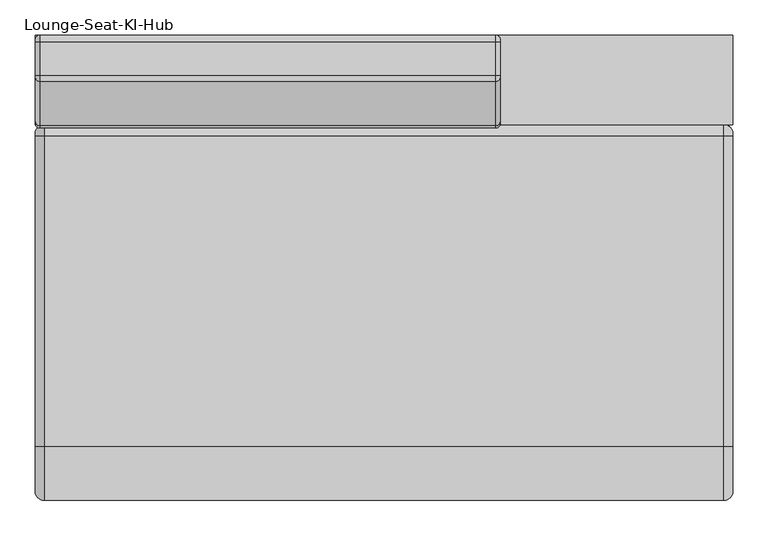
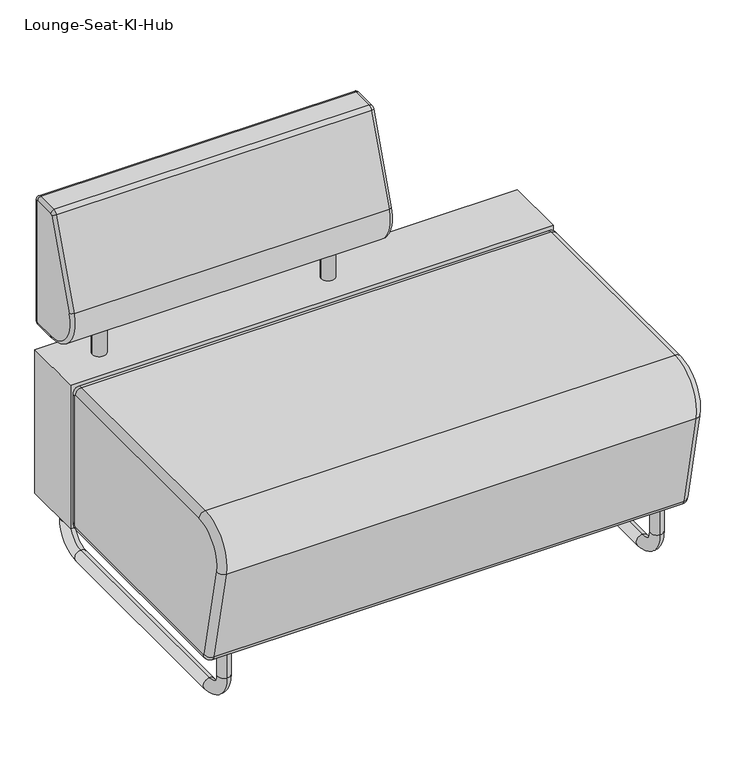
"""IFC4 building model written with IfcOpenShell, lengths in millimetres: furniture geometry."""

from ifc_helpers import new_model, si_unit, point, frame, frame_2d, origin, place, context, project, spatial, polyline, circle_curve, ellipse_curve, trimmed, segment, composite_curve, outline, extrude, source, transform, mapped, element, save
from ifc_brep_helpers import plane_surface, cylinder_surface, revolved_surface, advanced_brep


def lounge_seat_ki_hub_a14865a0(model_context):
    return source(origin(), model_context, "Body", "SolidModel", [
        extrude(outline(composite_curve([segment(trimmed(circle_curve(frame_2d((69.85, 266.7)), 14.2875), [point((55.5625, 266.7))], [point((84.1375, 266.7))], False, "CARTESIAN"), True, "CONTINUOUS"), segment(trimmed(circle_curve(frame_2d((69.85, 266.7)), 14.2875), [point((84.1375, 266.7))], [point((55.5625, 266.7))], False, "CARTESIAN"), True, "CONTINUOUS")], self_intersect=False)), frame((0.0, 0.0, 431.8), z_axis=(0.0, 0.0, 1.0), x_axis=(1.0, 0.0, 0.0)), (0.0, 0.0, 1.0), 63.5),
        extrude(outline(composite_curve([segment(trimmed(circle_curve(frame_2d((-400.05, 266.7)), 14.2875), [point((-414.3375, 266.7))], [point((-385.7625, 266.7))], False, "CARTESIAN"), True, "CONTINUOUS"), segment(trimmed(circle_curve(frame_2d((-400.05, 266.7)), 14.2875), [point((-385.7625, 266.7))], [point((-414.3375, 266.7))], False, "CARTESIAN"), True, "CONTINUOUS")], self_intersect=False)), frame((0.0, 0.0, 431.8), z_axis=(0.0, 0.0, 1.0), x_axis=(1.0, 0.0, 0.0)), (0.0, 0.0, 1.0), 63.5),
        advanced_brep(
        [(165.1, 274.6375, 495.3), (165.1, 207.4933705, 584.4032693), (158.75, 201.3893588, 586.1535665), (158.75, 274.6375, 488.95), (-488.95, 274.6375, 488.95), (-488.95, 201.3893588, 586.1535665), (-495.3, 207.4933705, 584.4032693), (-495.3, 274.6375, 495.3), (158.75, 320.675, 488.95), (165.1, 320.675, 495.3), (-495.3, 320.675, 495.3), (-488.95, 320.675, 488.95), (158.75, 330.2, 498.475), (165.1, 323.85, 498.475), (-495.3, 323.85, 498.475), (-488.95, 330.2, 498.475), (158.75, 330.2, 758.825), (165.1, 323.85, 758.825), (-495.3, 323.85, 758.825), (-488.95, 330.2, 758.825), (158.75, 320.675, 768.35), (165.1, 320.675, 762.0), (-495.3, 320.675, 762.0), (-488.95, 320.675, 768.35), (158.75, 273.6171173, 768.35), (165.1, 273.6171173, 762.0), (-495.3, 273.6171173, 762.0), (-488.95, 273.6171173, 768.35), (158.75, 264.88726, 762.6348842), (165.1, 270.7071649, 760.0949614), (-495.3, 270.7071649, 760.0949614), (-488.95, 264.88726, 762.6348842)],
        [
            (0, 1, circle_curve(frame((165.1, 274.6375, 565.15), z_axis=(-1.0, 0.0, 0.0), x_axis=(0.0, -0.9612616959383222, 0.2756373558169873)), 69.85)),
            (1, 2, circle_curve(frame((158.75, 207.4933705, 584.4032693), z_axis=(0.0, -0.2756373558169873, -0.9612616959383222), x_axis=(0.0, 0.9612616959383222, -0.2756373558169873)), 6.35)),
            (2, 3, circle_curve(frame((158.75, 274.6375, 565.15), z_axis=(1.0, 0.0, 0.0), x_axis=(0.0, -0.9612616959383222, 0.2756373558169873)), 76.2)),
            (3, 0, circle_curve(frame((158.75, 274.6375, 495.3), z_axis=(0.0, -0.9999999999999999, 0.0), x_axis=(0.0, 0.0, 0.9999999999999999)), 6.35)),
            (4, 5, circle_curve(frame((-488.95, 274.6375, 565.15), z_axis=(-1.0, 0.0, 0.0), x_axis=(0.0, -0.9612616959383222, 0.2756373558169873)), 76.2)),
            (5, 6, circle_curve(frame((-488.95, 207.4933705, 584.4032693), z_axis=(0.0, -0.2756373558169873, -0.9612616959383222), x_axis=(0.0, 0.9612616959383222, -0.2756373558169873)), 6.35)),
            (6, 7, circle_curve(frame((-495.3, 274.6375, 565.15), z_axis=(1.0, 0.0, 0.0), x_axis=(0.0, -0.9612616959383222, 0.2756373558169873)), 69.85)),
            (7, 4, circle_curve(frame((-488.95, 274.6375, 495.3), z_axis=(0.0, -0.9999999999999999, 0.0), x_axis=(0.0, 0.0, 0.9999999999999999)), 6.35)),
            (2, 5),
            (4, 3),
            (3, 8),
            (8, 9, circle_curve(frame((158.75, 320.675, 495.3), z_axis=(0.0, -1.0, 0.0), x_axis=(0.0, 0.0, 1.0)), 6.35)),
            (9, 0),
            (7, 10),
            (10, 11, circle_curve(frame((-488.95, 320.675, 495.3), z_axis=(0.0, -1.0, 0.0), x_axis=(0.0, 0.0, 1.0)), 6.35)),
            (11, 4),
            (11, 8),
            (8, 12, circle_curve(frame((158.75, 320.675, 498.475), z_axis=(1.0, 0.0, 0.0), x_axis=(0.0, 0.0, -1.0)), 9.525)),
            (12, 13, circle_curve(frame((158.75, 323.85, 498.475), z_axis=(0.0, -1.3642707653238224e-12, -1.0), x_axis=(0.0, -1.0, 1.3642707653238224e-12)), 6.35)),
            (13, 9, circle_curve(frame((165.1, 320.675, 498.475), z_axis=(-1.0, 0.0, 0.0), x_axis=(0.0, 0.0, -1.0)), 3.175)),
            (10, 14, circle_curve(frame((-495.3, 320.675, 498.475), z_axis=(1.0, 0.0, 0.0), x_axis=(0.0, 0.0, -1.0)), 3.175)),
            (14, 15, circle_curve(frame((-488.95, 323.85, 498.475), z_axis=(0.0, 0.0, -1.0), x_axis=(0.0, -1.0, 0.0)), 6.35)),
            (15, 11, circle_curve(frame((-488.95, 320.675, 498.475), z_axis=(-1.0, 0.0, 0.0), x_axis=(0.0, 0.0, -1.0)), 9.525)),
            (15, 12),
            (12, 16),
            (16, 17, circle_curve(frame((158.75, 323.85, 758.825), z_axis=(0.0, 0.0, -1.0), x_axis=(0.0, -1.0, 0.0)), 6.35)),
            (17, 13),
            (14, 18),
            (18, 19, circle_curve(frame((-488.95, 323.85, 758.825), z_axis=(0.0, 0.0, -1.0), x_axis=(0.0, -1.0, 0.0)), 6.35)),
            (19, 15),
            (19, 16),
            (16, 20, circle_curve(frame((158.75, 320.675, 758.825), z_axis=(1.0, 0.0, 0.0), x_axis=(0.0, 1.0, 0.0)), 9.525)),
            (20, 21, circle_curve(frame((158.75, 320.675, 762.0), z_axis=(0.0, 1.0, 0.0), x_axis=(0.0, 0.0, -1.0)), 6.35)),
            (21, 17, circle_curve(frame((165.1, 320.675, 758.825), z_axis=(-1.0, 0.0, 0.0), x_axis=(0.0, 1.0, 0.0)), 3.175)),
            (18, 22, circle_curve(frame((-495.3, 320.675, 758.825), z_axis=(1.0, 0.0, 0.0), x_axis=(0.0, 1.0, 0.0)), 3.175)),
            (22, 23, circle_curve(frame((-488.95, 320.675, 762.0), z_axis=(0.0, 1.0, 0.0), x_axis=(0.0, 0.0, -1.0)), 6.35)),
            (23, 19, circle_curve(frame((-488.95, 320.675, 758.825), z_axis=(-1.0, 0.0, 0.0), x_axis=(0.0, 1.0, 0.0)), 9.525)),
            (23, 20),
            (20, 24),
            (24, 25, circle_curve(frame((158.75, 273.6171173, 762.0), z_axis=(0.0, 1.0, 0.0), x_axis=(0.0, 0.0, -1.0)), 6.35)),
            (25, 21),
            (22, 26),
            (26, 27, circle_curve(frame((-488.95, 273.6171173, 762.0), z_axis=(0.0, 1.0, 0.0), x_axis=(0.0, 0.0, -1.0)), 6.35)),
            (27, 23),
            (27, 24),
            (24, 28, circle_curve(frame((158.75, 273.6171173, 758.825), z_axis=(1.0, 0.0, 0.0), x_axis=(0.0, 0.0, 1.0)), 9.525)),
            (28, 29, circle_curve(frame((158.75, 270.7071649, 760.0949614), z_axis=(0.0, 0.3999878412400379, 0.9165204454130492), x_axis=(0.0, 0.9165204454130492, -0.3999878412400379)), 6.35)),
            (29, 25, circle_curve(frame((165.1, 273.6171173, 758.825), z_axis=(-1.0, 0.0, 0.0), x_axis=(0.0, 0.0, 1.0)), 3.175)),
            (26, 30, circle_curve(frame((-495.3, 273.6171173, 758.825), z_axis=(1.0, 0.0, 0.0), x_axis=(0.0, 0.0, 1.0)), 3.175)),
            (30, 31, circle_curve(frame((-488.95, 270.7071649, 760.0949614), z_axis=(0.0, 0.399987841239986, 0.9165204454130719), x_axis=(0.0, 0.9165204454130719, -0.399987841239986)), 6.35)),
            (31, 27, circle_curve(frame((-488.95, 273.6171173, 758.825), z_axis=(-1.0, 0.0, 0.0), x_axis=(0.0, 0.0, 1.0)), 9.525)),
            (31, 28),
            (1, 29, circle_curve(frame((165.1, 1565.6359892, 194.9621402), z_axis=(-1.0, 0.0, 0.0), x_axis=(0.0, -0.9165204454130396, 0.39998784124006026)), 1412.875)),
            (28, 2, circle_curve(frame((158.75, 1565.6359892, 194.9621402), z_axis=(1.0, 0.0, 0.0), x_axis=(0.0, -0.9165204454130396, 0.39998784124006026)), 1419.225)),
            (6, 30, circle_curve(frame((-495.3, 1565.6359892, 194.9621402), z_axis=(-1.0, 0.0, 0.0), x_axis=(0.0, -0.9165204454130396, 0.39998784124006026)), 1412.875)),
            (5, 31, circle_curve(frame((-488.95, 1565.6359892, 194.9621402), z_axis=(-1.0, 0.0, 0.0), x_axis=(0.0, -0.9165204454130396, 0.39998784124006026)), 1419.225)),
        ],
        [
            revolved_surface(trimmed(ellipse_curve(frame((158.75, 207.4933705, 584.4032693), z_axis=(0.0, 0.2756373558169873, 0.9612616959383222), x_axis=(0.0, 0.9612616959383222, -0.2756373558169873)), 6.35, 6.35), [point((158.75, 201.3893588, 586.1535665))], [point((165.1, 207.4933705, 584.4032693))], True, "CARTESIAN"), (0.0, 274.6375, 565.15), (1.0, 0.0, 0.0)),
            revolved_surface(trimmed(ellipse_curve(frame((-488.95, 207.4933705, 584.4032693), z_axis=(0.0, 0.2756373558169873, 0.9612616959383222), x_axis=(0.0, 0.9612616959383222, -0.2756373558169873)), 6.35, 6.35), [point((-495.3, 207.4933705, 584.4032693))], [point((-488.95, 201.3893588, 586.1535665))], True, "CARTESIAN"), (0.0, 274.6375, 565.15), (1.0, 0.0, 0.0)),
            cylinder_surface(frame((0.0, 274.6375, 565.15), z_axis=(1.0, 0.0, 0.0), x_axis=(0.0, -0.9612616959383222, 0.2756373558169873)), 76.2),
            cylinder_surface(frame((158.75, 274.6375, 495.3), z_axis=(0.0, -1.0, 0.0), x_axis=(0.0, 0.0, 1.0)), 6.35),
            cylinder_surface(frame((-488.95, 274.6375, 495.3), z_axis=(0.0, -1.0, 0.0), x_axis=(0.0, 0.0, 1.0)), 6.35),
            plane_surface(frame((-488.95, 274.6375, 488.95), z_axis=(0.0, 0.0, -1.0), x_axis=(0.0, 1.0, 0.0))),
            revolved_surface(trimmed(ellipse_curve(frame((158.75, 320.675, 495.3), z_axis=(0.0, -1.0, 0.0), x_axis=(0.0, 0.0, 1.0)), 6.35, 6.35), [point((158.75, 320.675, 488.95))], [point((165.1, 320.675, 495.3))], True, "CARTESIAN"), (0.0, 320.675, 498.475), (1.0, 0.0, 0.0)),
            revolved_surface(trimmed(ellipse_curve(frame((-488.95, 320.675, 495.3), z_axis=(0.0, -1.0, 0.0), x_axis=(0.0, 0.0, 1.0)), 6.35, 6.35), [point((-495.3, 320.675, 495.3))], [point((-488.95, 320.675, 488.95))], True, "CARTESIAN"), (0.0, 320.675, 498.475), (1.0, 0.0, 0.0)),
            cylinder_surface(frame((0.0, 320.675, 498.475), z_axis=(1.0, 0.0, 0.0), x_axis=(0.0, 0.0, -1.0)), 9.525),
            cylinder_surface(frame((158.75, 323.85, 498.475), z_axis=(0.0, 0.0, -1.0), x_axis=(0.0, -1.0, 0.0)), 6.35),
            cylinder_surface(frame((-488.95, 323.85, 498.475), z_axis=(0.0, 0.0, -1.0), x_axis=(0.0, -1.0, 0.0)), 6.35),
            plane_surface(frame((-488.95, 330.2, 498.475), z_axis=(0.0, 1.0, 0.0), x_axis=(0.0, 0.0, 1.0))),
            revolved_surface(trimmed(ellipse_curve(frame((158.75, 323.85, 758.825), z_axis=(0.0, 0.0, -1.0), x_axis=(0.0, -1.0, 0.0)), 6.35, 6.35), [point((158.75, 330.2, 758.825))], [point((165.1, 323.85, 758.825))], True, "CARTESIAN"), (0.0, 320.675, 758.825), (1.0, 0.0, 0.0)),
            revolved_surface(trimmed(ellipse_curve(frame((-488.95, 323.85, 758.825), z_axis=(0.0, 0.0, -1.0), x_axis=(0.0, -1.0, 0.0)), 6.35, 6.35), [point((-495.3, 323.85, 758.825))], [point((-488.95, 330.2, 758.825))], True, "CARTESIAN"), (0.0, 320.675, 758.825), (1.0, 0.0, 0.0)),
            cylinder_surface(frame((0.0, 320.675, 758.825), z_axis=(1.0, 0.0, 0.0), x_axis=(0.0, 1.0, 0.0)), 9.525),
            cylinder_surface(frame((158.75, 320.675, 762.0), z_axis=(0.0, 1.0, 0.0), x_axis=(0.0, 0.0, -1.0)), 6.35),
            cylinder_surface(frame((-488.95, 320.675, 762.0), z_axis=(0.0, 1.0, 0.0), x_axis=(0.0, 0.0, -1.0)), 6.35),
            plane_surface(frame((-488.95, 320.675, 768.35), z_axis=(0.0, 0.0, 1.0), x_axis=(0.0, -1.0, 0.0))),
            revolved_surface(trimmed(ellipse_curve(frame((158.75, 273.6171173, 762.0), z_axis=(0.0, 1.0, 0.0), x_axis=(0.0, 0.0, -1.0)), 6.35, 6.35), [point((158.75, 273.6171173, 768.35))], [point((165.1, 273.6171173, 762.0))], True, "CARTESIAN"), (0.0, 273.6171173, 758.825), (1.0, 0.0, 0.0)),
            revolved_surface(trimmed(ellipse_curve(frame((-488.95, 273.6171173, 762.0), z_axis=(0.0, 1.0, 0.0), x_axis=(0.0, 0.0, -1.0)), 6.35, 6.35), [point((-495.3, 273.6171173, 762.0))], [point((-488.95, 273.6171173, 768.35))], True, "CARTESIAN"), (0.0, 273.6171173, 758.825), (1.0, 0.0, 0.0)),
            cylinder_surface(frame((0.0, 273.6171173, 758.825), z_axis=(1.0, 0.0, 0.0), x_axis=(0.0, 0.0, 1.0)), 9.525),
            revolved_surface(trimmed(ellipse_curve(frame((158.75, 270.7071649, 760.0949614), z_axis=(0.0, 0.39998784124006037, 0.9165204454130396), x_axis=(0.0, 0.9165204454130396, -0.39998784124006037)), 6.35, 6.35), [point((158.75, 264.88726, 762.6348842))], [point((165.1, 270.7071649, 760.0949614))], True, "CARTESIAN"), (0.0, 1565.6359892, 194.9621402), (1.0, 0.0, 0.0)),
            plane_surface(frame((165.1, 1565.6359892, 194.9621402), z_axis=(1.0, 0.0, 0.0), x_axis=(0.0, -0.9165204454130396, 0.39998784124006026))),
            plane_surface(frame((-495.3, 1565.6359892, 194.9621402), z_axis=(-1.0, 0.0, 0.0), x_axis=(0.0, -0.9165204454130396, 0.39998784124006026))),
            revolved_surface(trimmed(ellipse_curve(frame((-488.95, 270.7071649, 760.0949614), z_axis=(0.0, 0.39998784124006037, 0.9165204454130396), x_axis=(0.0, 0.9165204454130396, -0.39998784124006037)), 6.35, 6.35), [point((-495.3, 270.7071649, 760.0949614))], [point((-488.95, 264.88726, 762.6348842))], True, "CARTESIAN"), (0.0, 1565.6359892, 194.9621402), (1.0, 0.0, 0.0)),
            cylinder_surface(frame((0.0, 1565.6359892, 194.9621402), z_axis=(1.0, 0.0, 0.0), x_axis=(0.0, -0.9165204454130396, 0.39998784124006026)), 1419.225),
        ],
        [
            (0, [[1, 2, 3, 4]]),
            (1, [[5, 6, 7, 8]]),
            (2, [[-3, 9, -5, 10]]),
            (3, [[-4, 11, 12, 13]]),
            (4, [[-8, 14, 15, 16]]),
            (5, [[-10, -16, 17, -11]]),
            (6, [[-12, 18, 19, 20]]),
            (7, [[-15, 21, 22, 23]]),
            (8, [[-17, -23, 24, -18]]),
            (9, [[-19, 25, 26, 27]]),
            (10, [[-22, 28, 29, 30]]),
            (11, [[-24, -30, 31, -25]]),
            (12, [[-26, 32, 33, 34]]),
            (13, [[-29, 35, 36, 37]]),
            (14, [[-31, -37, 38, -32]]),
            (15, [[-33, 39, 40, 41]]),
            (16, [[-36, 42, 43, 44]]),
            (17, [[-38, -44, 45, -39]]),
            (18, [[-40, 46, 47, 48]]),
            (19, [[-43, 49, 50, 51]]),
            (20, [[-45, -51, 52, -46]]),
            (21, [[-2, 53, -47, 54]]),
            (22, [[-1, -13, -20, -27, -34, -41, -48, -53]]),
            (23, [[-7, 55, -49, -42, -35, -28, -21, -14]]),
            (24, [[-6, 56, -50, -55]]),
            (25, [[-9, -54, -52, -56]]),
        ],
    ),
        advanced_brep(
        [(444.5, -266.7, 120.65), (444.5, -241.3, 120.65), (444.5, -266.7, 63.5), (444.5, -241.3, 63.5), (444.5, -203.2, 25.4), (444.5, -203.2, 0.0), (444.5, 254.0, 0.0), (444.5, 254.0, 25.4), (444.5, 292.1, 63.5), (444.5, 317.5, 63.5), (444.5, 317.5, 120.65), (444.5, 292.1, 120.65)],
        [
            (0, 1, circle_curve(frame((444.5, -254.0, 120.65), z_axis=(0.0, 0.0, 1.0), x_axis=(0.0, 1.0, 0.0)), 12.7)),
            (1, 0, circle_curve(frame((444.5, -254.0, 120.65), z_axis=(0.0, 0.0, 1.0), x_axis=(0.0, 1.0, 0.0)), 12.7)),
            (0, 2),
            (2, 3, circle_curve(frame((444.5, -254.0, 63.5), z_axis=(0.0, 0.0, 1.0), x_axis=(0.0, 1.0, 0.0)), 12.7)),
            (3, 1),
            (3, 2, circle_curve(frame((444.5, -254.0, 63.5), z_axis=(0.0, 0.0, 1.0), x_axis=(0.0, 1.0, 0.0)), 12.7)),
            (4, 3, circle_curve(frame((444.5, -203.2, 63.5), z_axis=(-1.0, 0.0, 0.0), x_axis=(0.0, -1.0, 0.0)), 38.1)),
            (2, 5, circle_curve(frame((444.5, -203.2, 63.5), z_axis=(1.0, 0.0, 0.0), x_axis=(0.0, -1.0, 0.0)), 63.5)),
            (5, 4, circle_curve(frame((444.5, -203.2, 12.7), z_axis=(0.0, -1.0, 0.0), x_axis=(0.0, 0.0, 1.0)), 12.7)),
            (4, 5, circle_curve(frame((444.5, -203.2, 12.7), z_axis=(0.0, -1.0, 0.0), x_axis=(0.0, 0.0, 1.0)), 12.7)),
            (5, 6),
            (6, 7, circle_curve(frame((444.5, 254.0, 12.7), z_axis=(0.0, -1.0, 0.0), x_axis=(0.0, 0.0, 1.0)), 12.7)),
            (7, 4),
            (7, 6, circle_curve(frame((444.5, 254.0, 12.7), z_axis=(0.0, -1.0, 0.0), x_axis=(0.0, 0.0, 1.0)), 12.7)),
            (8, 7, circle_curve(frame((444.5, 254.0, 63.5), z_axis=(-1.0, 0.0, 0.0), x_axis=(0.0, 0.0, -1.0)), 38.1)),
            (6, 9, circle_curve(frame((444.5, 254.0, 63.5), z_axis=(1.0, 0.0, 0.0), x_axis=(0.0, 0.0, -1.0)), 63.5)),
            (9, 8, circle_curve(frame((444.5, 304.8, 63.5), z_axis=(0.0, 0.0, -1.0), x_axis=(0.0, -1.0, 0.0)), 12.7)),
            (8, 9, circle_curve(frame((444.5, 304.8, 63.5), z_axis=(0.0, 0.0, -1.0), x_axis=(0.0, -1.0, 0.0)), 12.7)),
            (10, 11, circle_curve(frame((444.5, 304.8, 120.65), z_axis=(0.0, 0.0, 1.0), x_axis=(0.0, -1.0, 0.0)), 12.7)),
            (11, 10, circle_curve(frame((444.5, 304.8, 120.65), z_axis=(0.0, 0.0, 1.0), x_axis=(0.0, -1.0, 0.0)), 12.7)),
            (9, 10),
            (11, 8),
        ],
        [
            plane_surface(frame((444.5, -254.0, 120.65), z_axis=(0.0, 0.0, 1.0), x_axis=(1.0, 0.0, 0.0))),
            cylinder_surface(frame((444.5, -254.0, 120.65), z_axis=(0.0, 0.0, 1.0), x_axis=(0.0, 1.0, 0.0)), 12.7),
            revolved_surface(trimmed(ellipse_curve(frame((444.5, -254.0, 63.5), z_axis=(0.0, 0.0, 1.0), x_axis=(0.0, 1.0, 0.0)), 12.7, 12.7), [point((444.5, -266.7, 63.5))], [point((444.5, -241.3, 63.5))], True, "CARTESIAN"), (444.5, -203.2, 63.5), (1.0, 0.0, 0.0)),
            revolved_surface(trimmed(ellipse_curve(frame((444.5, -254.0, 63.5), z_axis=(0.0, 0.0, 1.0), x_axis=(0.0, 1.0, 0.0)), 12.7, 12.7), [point((444.5, -241.3, 63.5))], [point((444.5, -266.7, 63.5))], True, "CARTESIAN"), (444.5, -203.2, 63.5), (1.0, 0.0, 0.0)),
            cylinder_surface(frame((444.5, -203.2, 12.7), z_axis=(0.0, -1.0, 0.0), x_axis=(0.0, 0.0, 1.0)), 12.7),
            revolved_surface(trimmed(ellipse_curve(frame((444.5, 254.0, 12.7), z_axis=(0.0, -1.0, 0.0), x_axis=(0.0, 0.0, 1.0)), 12.7, 12.7), [point((444.5, 254.0, 0.0))], [point((444.5, 254.0, 25.4))], True, "CARTESIAN"), (444.5, 254.0, 63.5), (1.0, 0.0, 0.0)),
            revolved_surface(trimmed(ellipse_curve(frame((444.5, 254.0, 12.7), z_axis=(0.0, -1.0, 0.0), x_axis=(0.0, 0.0, 1.0)), 12.7, 12.7), [point((444.5, 254.0, 25.4))], [point((444.5, 254.0, 0.0))], True, "CARTESIAN"), (444.5, 254.0, 63.5), (1.0, 0.0, 0.0)),
            plane_surface(frame((444.5, 304.8, 120.65), z_axis=(0.0, 0.0, 1.0), x_axis=(1.0, 0.0, 0.0))),
            cylinder_surface(frame((444.5, 304.8, 63.5), z_axis=(0.0, 0.0, -1.0), x_axis=(0.0, -1.0, 0.0)), 12.7),
        ],
        [
            (0, [[1, 2]]),
            (1, [[-1, 3, 4, 5]]),
            (1, [[-2, -5, 6, -3]]),
            (2, [[7, -4, 8, 9]]),
            (3, [[-8, -6, -7, 10]]),
            (4, [[-9, 11, 12, 13]]),
            (4, [[-10, -13, 14, -11]]),
            (5, [[15, -12, 16, 17]]),
            (6, [[-16, -14, -15, 18]]),
            (7, [[19, 20]]),
            (8, [[-17, 21, -20, 22]]),
            (8, [[-18, -22, -19, -21]]),
        ],
    ),
        advanced_brep(
        [(-444.5, -266.7, 120.65), (-444.5, -241.3, 120.65), (-444.5, -266.7, 63.5), (-444.5, -241.3, 63.5), (-444.5, -203.2, 25.4), (-444.5, -203.2, 0.0), (-444.5, 254.0, 0.0), (-444.5, 254.0, 25.4), (-444.5, 292.1, 63.5), (-444.5, 317.5, 63.5), (-444.5, 317.5, 120.65), (-444.5, 292.1, 120.65)],
        [
            (0, 1, circle_curve(frame((-444.5, -254.0, 120.65), z_axis=(0.0, 0.0, 1.0), x_axis=(0.0, 1.0, 0.0)), 12.7)),
            (1, 0, circle_curve(frame((-444.5, -254.0, 120.65), z_axis=(0.0, 0.0, 1.0), x_axis=(0.0, 1.0, 0.0)), 12.7)),
            (0, 2),
            (2, 3, circle_curve(frame((-444.5, -254.0, 63.5), z_axis=(0.0, 0.0, 1.0), x_axis=(0.0, 1.0, 0.0)), 12.7)),
            (3, 1),
            (3, 2, circle_curve(frame((-444.5, -254.0, 63.5), z_axis=(0.0, 0.0, 1.0), x_axis=(0.0, 1.0, 0.0)), 12.7)),
            (4, 3, circle_curve(frame((-444.5, -203.2, 63.5), z_axis=(-1.0, 0.0, 0.0), x_axis=(0.0, -1.0, 0.0)), 38.1)),
            (2, 5, circle_curve(frame((-444.5, -203.2, 63.5), z_axis=(1.0, 0.0, 0.0), x_axis=(0.0, -1.0, 0.0)), 63.5)),
            (5, 4, circle_curve(frame((-444.5, -203.2, 12.7), z_axis=(0.0, -1.0, 0.0), x_axis=(0.0, 0.0, 1.0)), 12.7)),
            (4, 5, circle_curve(frame((-444.5, -203.2, 12.7), z_axis=(0.0, -1.0, 0.0), x_axis=(0.0, 0.0, 1.0)), 12.7)),
            (5, 6),
            (6, 7, circle_curve(frame((-444.5, 254.0, 12.7), z_axis=(0.0, -1.0, 0.0), x_axis=(0.0, 0.0, 1.0)), 12.7)),
            (7, 4),
            (7, 6, circle_curve(frame((-444.5, 254.0, 12.7), z_axis=(0.0, -1.0, 0.0), x_axis=(0.0, 0.0, 1.0)), 12.7)),
            (8, 7, circle_curve(frame((-444.5, 254.0, 63.5), z_axis=(-1.0, 0.0, 0.0), x_axis=(0.0, 0.0, -1.0)), 38.1)),
            (6, 9, circle_curve(frame((-444.5, 254.0, 63.5), z_axis=(1.0, 0.0, 0.0), x_axis=(0.0, 0.0, -1.0)), 63.5)),
            (9, 8, circle_curve(frame((-444.5, 304.8, 63.5), z_axis=(0.0, 0.0, -1.0), x_axis=(0.0, -1.0, 0.0)), 12.7)),
            (8, 9, circle_curve(frame((-444.5, 304.8, 63.5), z_axis=(0.0, 0.0, -1.0), x_axis=(0.0, -1.0, 0.0)), 12.7)),
            (10, 11, circle_curve(frame((-444.5, 304.8, 120.65), z_axis=(0.0, 0.0, 1.0), x_axis=(0.0, -1.0, 0.0)), 12.7)),
            (11, 10, circle_curve(frame((-444.5, 304.8, 120.65), z_axis=(0.0, 0.0, 1.0), x_axis=(0.0, -1.0, 0.0)), 12.7)),
            (9, 10),
            (11, 8),
        ],
        [
            plane_surface(frame((-444.5, -254.0, 120.65), z_axis=(0.0, 0.0, 1.0), x_axis=(1.0, 0.0, 0.0))),
            cylinder_surface(frame((-444.5, -254.0, 120.65), z_axis=(0.0, 0.0, 1.0), x_axis=(0.0, 1.0, 0.0)), 12.7),
            revolved_surface(trimmed(ellipse_curve(frame((-444.5, -254.0, 63.5), z_axis=(0.0, 0.0, 1.0), x_axis=(0.0, 1.0, 0.0)), 12.7, 12.7), [point((-444.5, -266.7, 63.5))], [point((-444.5, -241.3, 63.5))], True, "CARTESIAN"), (-444.5, -203.2, 63.5), (1.0, 0.0, 0.0)),
            revolved_surface(trimmed(ellipse_curve(frame((-444.5, -254.0, 63.5), z_axis=(0.0, 0.0, 1.0), x_axis=(0.0, 1.0, 0.0)), 12.7, 12.7), [point((-444.5, -241.3, 63.5))], [point((-444.5, -266.7, 63.5))], True, "CARTESIAN"), (-444.5, -203.2, 63.5), (1.0, 0.0, 0.0)),
            cylinder_surface(frame((-444.5, -203.2, 12.7), z_axis=(0.0, -1.0, 0.0), x_axis=(0.0, 0.0, 1.0)), 12.7),
            revolved_surface(trimmed(ellipse_curve(frame((-444.5, 254.0, 12.7), z_axis=(0.0, -1.0, 0.0), x_axis=(0.0, 0.0, 1.0)), 12.7, 12.7), [point((-444.5, 254.0, 0.0))], [point((-444.5, 254.0, 25.4))], True, "CARTESIAN"), (-444.5, 254.0, 63.5), (1.0, 0.0, 0.0)),
            revolved_surface(trimmed(ellipse_curve(frame((-444.5, 254.0, 12.7), z_axis=(0.0, -1.0, 0.0), x_axis=(0.0, 0.0, 1.0)), 12.7, 12.7), [point((-444.5, 254.0, 25.4))], [point((-444.5, 254.0, 0.0))], True, "CARTESIAN"), (-444.5, 254.0, 63.5), (1.0, 0.0, 0.0)),
            plane_surface(frame((-444.5, 304.8, 120.65), z_axis=(0.0, 0.0, 1.0), x_axis=(1.0, 0.0, 0.0))),
            cylinder_surface(frame((-444.5, 304.8, 63.5), z_axis=(0.0, 0.0, -1.0), x_axis=(0.0, -1.0, 0.0)), 12.7),
        ],
        [
            (0, [[1, 2]]),
            (1, [[-1, 3, 4, 5]]),
            (1, [[-2, -5, 6, -3]]),
            (2, [[7, -4, 8, 9]]),
            (3, [[-8, -6, -7, 10]]),
            (4, [[-9, 11, 12, 13]]),
            (4, [[-10, -13, 14, -11]]),
            (5, [[15, -12, 16, 17]]),
            (6, [[-16, -14, -15, 18]]),
            (7, [[19, 20]]),
            (8, [[-17, 21, -20, 22]]),
            (8, [[-18, -22, -19, -21]]),
        ],
    ),
        extrude(outline(polyline([(495.3, 330.2), (495.3, 203.2), (-495.3, 203.2), (-495.3, 330.2), (495.3, 330.2)])), frame((0.0, 0.0, 120.65), z_axis=(0.0, 0.0, 1.0), x_axis=(1.0, 0.0, 0.0)), (0.0, 0.0, 1.0), 311.15),
        advanced_brep(
        [(495.3, -316.1123726, 342.3976076), (495.3, -254.0, 419.1), (482.6, -254.0, 431.8), (482.6, -328.5348472, 339.7571292), (-482.6, -328.5348472, 339.7571292), (-482.6, -254.0, 431.8), (-495.3, -254.0, 419.1), (-495.3, -316.1123726, 342.3976076), (482.6, -284.6349608, 133.2244019), (495.3, -272.2124863, 135.8648804), (-495.3, -272.2124863, 135.8648804), (-482.6, -284.6349608, 133.2244019), (482.6, -269.1068676, 120.65), (495.3, -269.1068676, 133.35), (-495.3, -269.1068676, 133.35), (-482.6, -269.1068676, 120.65), (482.6, 187.325, 120.65), (495.3, 187.325, 133.35), (-495.3, 187.325, 133.35), (-482.6, 187.325, 120.65), (482.6, 203.2, 136.525), (495.3, 190.5, 136.525), (-495.3, 190.5, 136.525), (-482.6, 203.2, 136.525), (482.6, 203.2, 415.925), (495.3, 190.5, 415.925), (-495.3, 190.5, 415.925), (-482.6, 203.2, 415.925), (482.6, 187.325, 431.8), (495.3, 187.325, 419.1), (-495.3, 187.325, 419.1), (-482.6, 187.325, 431.8)],
        [
            (0, 1, circle_curve(frame((495.3, -254.0, 355.6), z_axis=(-1.0, 0.0, 0.0), x_axis=(0.0, 0.0, 1.0)), 63.5)),
            (1, 2, circle_curve(frame((482.6, -254.0, 419.1), z_axis=(0.0, -1.0, 0.0), x_axis=(0.0, 0.0, -1.0)), 12.7)),
            (2, 3, circle_curve(frame((482.6, -254.0, 355.6), z_axis=(1.0, 0.0, 0.0), x_axis=(0.0, 0.0, 1.0)), 76.2)),
            (3, 0, circle_curve(frame((482.6, -316.1123726, 342.3976076), z_axis=(0.0, -0.20791169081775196, 0.9781476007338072), x_axis=(0.0, 0.9781476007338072, 0.20791169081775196)), 12.7)),
            (4, 5, circle_curve(frame((-482.6, -254.0, 355.6), z_axis=(-1.0, 0.0, 0.0), x_axis=(0.0, 0.0, 1.0)), 76.2)),
            (5, 6, circle_curve(frame((-482.6, -254.0, 419.1), z_axis=(0.0, -1.0, 0.0), x_axis=(0.0, 0.0, -1.0)), 12.7)),
            (6, 7, circle_curve(frame((-495.3, -254.0, 355.6), z_axis=(1.0, 0.0, 0.0), x_axis=(0.0, 0.0, 1.0)), 63.5)),
            (7, 4, circle_curve(frame((-482.6, -316.1123726, 342.3976076), z_axis=(0.0, -0.20791169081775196, 0.9781476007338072), x_axis=(0.0, 0.9781476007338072, 0.20791169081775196)), 12.7)),
            (2, 5),
            (4, 3),
            (3, 8),
            (8, 9, circle_curve(frame((482.6, -272.2124863, 135.8648804), z_axis=(0.0, -0.2079116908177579, 0.978147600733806), x_axis=(0.0, 0.978147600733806, 0.2079116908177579)), 12.7)),
            (9, 0),
            (7, 10),
            (10, 11, circle_curve(frame((-482.6, -272.2124863, 135.8648804), z_axis=(0.0, -0.2079116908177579, 0.978147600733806), x_axis=(0.0, 0.978147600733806, 0.2079116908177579)), 12.7)),
            (11, 4),
            (11, 8),
            (8, 12, circle_curve(frame((482.6, -269.1068676, 136.525), z_axis=(1.0, 0.0, 0.0), x_axis=(0.0, -0.9781476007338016, -0.2079116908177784)), 15.875)),
            (12, 13, circle_curve(frame((482.6, -269.1068676, 133.35), z_axis=(0.0, -1.0, 0.0), x_axis=(0.0, 0.0, 1.0)), 12.7)),
            (13, 9, circle_curve(frame((495.3, -269.1068676, 136.525), z_axis=(-1.0, 0.0, 0.0), x_axis=(0.0, -0.9781476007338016, -0.2079116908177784)), 3.175)),
            (10, 14, circle_curve(frame((-495.3, -269.1068676, 136.525), z_axis=(1.0, 0.0, 0.0), x_axis=(0.0, -0.9781476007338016, -0.2079116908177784)), 3.175)),
            (14, 15, circle_curve(frame((-482.6, -269.1068676, 133.35), z_axis=(0.0, -1.0, 0.0), x_axis=(0.0, 0.0, 1.0)), 12.7)),
            (15, 11, circle_curve(frame((-482.6, -269.1068676, 136.525), z_axis=(-1.0, 0.0, 0.0), x_axis=(0.0, -0.9781476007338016, -0.2079116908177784)), 15.875)),
            (15, 12),
            (12, 16),
            (16, 17, circle_curve(frame((482.6, 187.325, 133.35), z_axis=(0.0, -1.0, 0.0), x_axis=(0.0, 0.0, 1.0)), 12.7)),
            (17, 13),
            (14, 18),
            (18, 19, circle_curve(frame((-482.6, 187.325, 133.35), z_axis=(0.0, -1.0, 0.0), x_axis=(0.0, 0.0, 1.0)), 12.7)),
            (19, 15),
            (19, 16),
            (16, 20, circle_curve(frame((482.6, 187.325, 136.525), z_axis=(1.0, 0.0, 0.0), x_axis=(0.0, 0.0, -1.0)), 15.875)),
            (20, 21, circle_curve(frame((482.6, 190.5, 136.525), z_axis=(0.0, 0.0, -1.0), x_axis=(0.0, -1.0, 0.0)), 12.7)),
            (21, 17, circle_curve(frame((495.3, 187.325, 136.525), z_axis=(-1.0, 0.0, 0.0), x_axis=(0.0, 0.0, -1.0)), 3.175)),
            (18, 22, circle_curve(frame((-495.3, 187.325, 136.525), z_axis=(1.0, 0.0, 0.0), x_axis=(0.0, 0.0, -1.0)), 3.175)),
            (22, 23, circle_curve(frame((-482.6, 190.5, 136.525), z_axis=(0.0, 0.0, -1.0), x_axis=(0.0, -1.0, 0.0)), 12.7)),
            (23, 19, circle_curve(frame((-482.6, 187.325, 136.525), z_axis=(-1.0, 0.0, 0.0), x_axis=(0.0, 0.0, -1.0)), 15.875)),
            (23, 20),
            (20, 24),
            (24, 25, circle_curve(frame((482.6, 190.5, 415.925), z_axis=(0.0, 0.0, -1.0), x_axis=(0.0, -1.0, 0.0)), 12.7)),
            (25, 21),
            (22, 26),
            (26, 27, circle_curve(frame((-482.6, 190.5, 415.925), z_axis=(0.0, 0.0, -1.0), x_axis=(0.0, -1.0, 0.0)), 12.7)),
            (27, 23),
            (27, 24),
            (24, 28, circle_curve(frame((482.6, 187.325, 415.925), z_axis=(1.0, 0.0, 0.0), x_axis=(0.0, 1.0, 0.0)), 15.875)),
            (28, 29, circle_curve(frame((482.6, 187.325, 419.1), z_axis=(0.0, 1.0, 0.0), x_axis=(0.0, 0.0, -1.0)), 12.7)),
            (29, 25, circle_curve(frame((495.3, 187.325, 415.925), z_axis=(-1.0, 0.0, 0.0), x_axis=(0.0, 1.0, 0.0)), 3.175)),
            (26, 30, circle_curve(frame((-495.3, 187.325, 415.925), z_axis=(1.0, 0.0, 0.0), x_axis=(0.0, 1.0, 0.0)), 3.175)),
            (30, 31, circle_curve(frame((-482.6, 187.325, 419.1), z_axis=(0.0, 1.0, 0.0), x_axis=(0.0, 0.0, -1.0)), 12.7)),
            (31, 27, circle_curve(frame((-482.6, 187.325, 415.925), z_axis=(-1.0, 0.0, 0.0), x_axis=(0.0, 1.0, 0.0)), 15.875)),
            (31, 28),
            (1, 29),
            (28, 2),
            (6, 30),
            (5, 31),
        ],
        [
            revolved_surface(trimmed(ellipse_curve(frame((482.6, -254.0, 419.1), z_axis=(0.0, 1.0, 0.0), x_axis=(0.0, 0.0, -1.0)), 12.7, 12.7), [point((482.6, -254.0, 431.8))], [point((495.3, -254.0, 419.1))], True, "CARTESIAN"), (0.0, -254.0, 355.6), (1.0, 0.0, 0.0)),
            revolved_surface(trimmed(ellipse_curve(frame((-482.6, -254.0, 419.1), z_axis=(0.0, 1.0, 0.0), x_axis=(0.0, 0.0, -1.0)), 12.7, 12.7), [point((-495.3, -254.0, 419.1))], [point((-482.6, -254.0, 431.8))], True, "CARTESIAN"), (0.0, -254.0, 355.6), (1.0, 0.0, 0.0)),
            cylinder_surface(frame((0.0, -254.0, 355.6), z_axis=(1.0, 0.0, 0.0), x_axis=(0.0, 0.0, 1.0)), 76.2),
            cylinder_surface(frame((482.6, -316.1123726, 342.3976076), z_axis=(0.0, -0.2079116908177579, 0.978147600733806), x_axis=(0.0, 0.978147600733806, 0.2079116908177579)), 12.7),
            cylinder_surface(frame((-482.6, -316.1123726, 342.3976076), z_axis=(0.0, -0.2079116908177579, 0.978147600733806), x_axis=(0.0, 0.978147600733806, 0.2079116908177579)), 12.7),
            plane_surface(frame((-482.6, -328.5348472, 339.7571292), z_axis=(0.0, -0.978147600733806, -0.20791169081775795), x_axis=(0.0, 0.20791169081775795, -0.978147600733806))),
            revolved_surface(trimmed(ellipse_curve(frame((482.6, -272.2124863, 135.8648804), z_axis=(0.0, -0.2079116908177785, 0.9781476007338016), x_axis=(0.0, 0.9781476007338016, 0.2079116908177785)), 12.7, 12.7), [point((482.6, -284.6349608, 133.2244019))], [point((495.3, -272.2124863, 135.8648804))], True, "CARTESIAN"), (0.0, -269.1068676, 136.525), (1.0, 0.0, 0.0)),
            revolved_surface(trimmed(ellipse_curve(frame((-482.6, -272.2124863, 135.8648804), z_axis=(0.0, -0.2079116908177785, 0.9781476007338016), x_axis=(0.0, 0.9781476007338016, 0.2079116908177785)), 12.7, 12.7), [point((-495.3, -272.2124863, 135.8648804))], [point((-482.6, -284.6349608, 133.2244019))], True, "CARTESIAN"), (0.0, -269.1068676, 136.525), (1.0, 0.0, 0.0)),
            cylinder_surface(frame((0.0, -269.1068676, 136.525), z_axis=(1.0, 0.0, 0.0), x_axis=(0.0, -0.9781476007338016, -0.2079116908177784)), 15.875),
            cylinder_surface(frame((482.6, -269.1068676, 133.35), z_axis=(0.0, -1.0, 0.0), x_axis=(0.0, 0.0, 1.0)), 12.7),
            cylinder_surface(frame((-482.6, -269.1068676, 133.35), z_axis=(0.0, -1.0, 0.0), x_axis=(0.0, 0.0, 1.0)), 12.7),
            plane_surface(frame((-482.6, -269.1068676, 120.65), z_axis=(0.0, 0.0, -1.0), x_axis=(0.0, 1.0, 0.0))),
            revolved_surface(trimmed(ellipse_curve(frame((482.6, 187.325, 133.35), z_axis=(0.0, -1.0, 0.0), x_axis=(0.0, 0.0, 1.0)), 12.7, 12.7), [point((482.6, 187.325, 120.65))], [point((495.3, 187.325, 133.35))], True, "CARTESIAN"), (0.0, 187.325, 136.525), (1.0, 0.0, 0.0)),
            revolved_surface(trimmed(ellipse_curve(frame((-482.6, 187.325, 133.35), z_axis=(0.0, -1.0, 0.0), x_axis=(0.0, 0.0, 1.0)), 12.7, 12.7), [point((-495.3, 187.325, 133.35))], [point((-482.6, 187.325, 120.65))], True, "CARTESIAN"), (0.0, 187.325, 136.525), (1.0, 0.0, 0.0)),
            cylinder_surface(frame((0.0, 187.325, 136.525), z_axis=(1.0, 0.0, 0.0), x_axis=(0.0, 0.0, -1.0)), 15.875),
            cylinder_surface(frame((482.6, 190.5, 136.525), z_axis=(0.0, 0.0, -1.0), x_axis=(0.0, -1.0, 0.0)), 12.7),
            cylinder_surface(frame((-482.6, 190.5, 136.525), z_axis=(0.0, 0.0, -1.0), x_axis=(0.0, -1.0, 0.0)), 12.7),
            plane_surface(frame((-482.6, 203.2, 136.525), z_axis=(0.0, 1.0, 0.0), x_axis=(0.0, 0.0, 1.0))),
            revolved_surface(trimmed(ellipse_curve(frame((482.6, 190.5, 415.925), z_axis=(0.0, 0.0, -1.0), x_axis=(0.0, -1.0, 0.0)), 12.7, 12.7), [point((482.6, 203.2, 415.925))], [point((495.3, 190.5, 415.925))], True, "CARTESIAN"), (0.0, 187.325, 415.925), (1.0, 0.0, 0.0)),
            revolved_surface(trimmed(ellipse_curve(frame((-482.6, 190.5, 415.925), z_axis=(0.0, 0.0, -1.0), x_axis=(0.0, -1.0, 0.0)), 12.7, 12.7), [point((-495.3, 190.5, 415.925))], [point((-482.6, 203.2, 415.925))], True, "CARTESIAN"), (0.0, 187.325, 415.925), (1.0, 0.0, 0.0)),
            cylinder_surface(frame((0.0, 187.325, 415.925), z_axis=(1.0, 0.0, 0.0), x_axis=(0.0, 1.0, 0.0)), 15.875),
            cylinder_surface(frame((482.6, 187.325, 419.1), z_axis=(0.0, 1.0, 0.0), x_axis=(0.0, 0.0, -1.0)), 12.7),
            plane_surface(frame((495.3, 187.325, 419.1), z_axis=(1.0, 0.0, 0.0), x_axis=(0.0, -1.0, 0.0))),
            plane_surface(frame((-495.3, 187.325, 418.30625), z_axis=(-1.0, 0.0, 0.0), x_axis=(0.0, -1.0, 0.0))),
            cylinder_surface(frame((-482.6, 187.325, 419.1), z_axis=(0.0, 1.0, 0.0), x_axis=(0.0, 0.0, -1.0)), 12.7),
            plane_surface(frame((-482.6, 187.325, 431.8), z_axis=(0.0, 0.0, 1.0), x_axis=(0.0, -1.0, 0.0))),
        ],
        [
            (0, [[1, 2, 3, 4]]),
            (1, [[5, 6, 7, 8]]),
            (2, [[-3, 9, -5, 10]]),
            (3, [[-4, 11, 12, 13]]),
            (4, [[-8, 14, 15, 16]]),
            (5, [[-10, -16, 17, -11]]),
            (6, [[-12, 18, 19, 20]]),
            (7, [[-15, 21, 22, 23]]),
            (8, [[-17, -23, 24, -18]]),
            (9, [[-19, 25, 26, 27]]),
            (10, [[-22, 28, 29, 30]]),
            (11, [[-24, -30, 31, -25]]),
            (12, [[-26, 32, 33, 34]]),
            (13, [[-29, 35, 36, 37]]),
            (14, [[-31, -37, 38, -32]]),
            (15, [[-33, 39, 40, 41]]),
            (16, [[-36, 42, 43, 44]]),
            (17, [[-38, -44, 45, -39]]),
            (18, [[-40, 46, 47, 48]]),
            (19, [[-43, 49, 50, 51]]),
            (20, [[-45, -51, 52, -46]]),
            (21, [[-2, 53, -47, 54]]),
            (22, [[-1, -13, -20, -27, -34, -41, -48, -53]]),
            (23, [[-7, 55, -49, -42, -35, -28, -21, -14]]),
            (24, [[-6, 56, -50, -55]]),
            (25, [[-9, -54, -52, -56]]),
        ],
    ),
    ])


if __name__ == "__main__":
    model = new_model("IFC4")
    model_context = context("Model", 3, world=origin())
    ifc_project = project(units=[si_unit("LENGTHUNIT", "METRE", prefix="MILLI")], contexts=[model_context])
    site = spatial("IfcSite", under=ifc_project)
    building = spatial("IfcBuilding", under=site)
    placement = place(None, origin())
    lounge_seat_ki_hub_shape = lounge_seat_ki_hub_a14865a0(model_context)
    element("IfcFurniture", 1, ObjectType="Lounge-Seat-KI-Hub : 39\"W, Laminate, Contrast, Back L", at=placement, inside=building, context=model_context, shape_type="MappedRepresentation", body=[
        mapped(lounge_seat_ki_hub_shape, transform((0.0, 0.0, 0.0), x_axis=(1.0, 0.0, 0.0), y_axis=(0.0, 1.0, 0.0), z_axis=(0.0, 0.0, 1.0))),
    ])
    save(model, "model.ifc")
